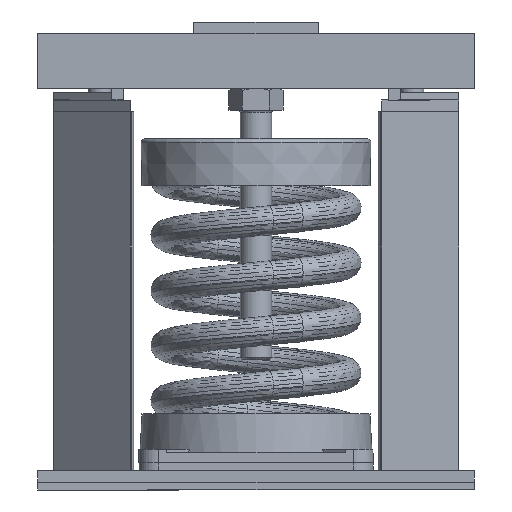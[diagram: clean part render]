
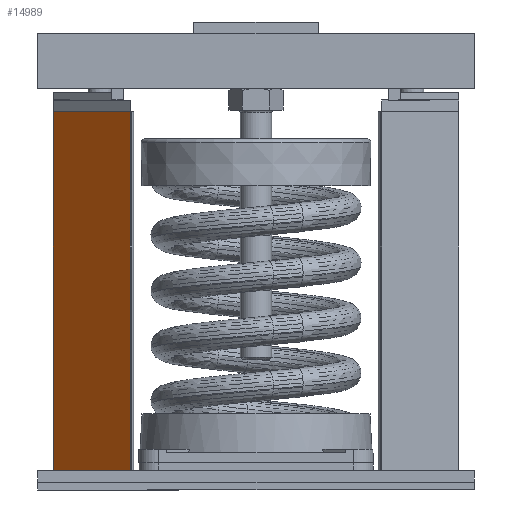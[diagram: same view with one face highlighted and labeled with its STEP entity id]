
A CAD part, front view. The second image highlights one B-rep face of the part: STEP entity #14989.
In plain terms, the highlighted planar face has unit normal (-0.707, -0.707, 0) as drawn and (0, -1, 0) by its records, which use the part's own axes.
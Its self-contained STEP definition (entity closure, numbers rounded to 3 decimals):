
#2627=LINE('',#18952,#3086);
#2629=LINE('',#18956,#3088);
#2630=LINE('',#18958,#3089);
#2631=LINE('',#18959,#3090);
#3086=VECTOR('',#16983,11.5);
#3088=VECTOR('',#16987,3.5);
#3089=VECTOR('',#16988,11.5);
#3090=VECTOR('',#16989,3.5);
#3505=PLANE('',#16030);
#3992=FACE_OUTER_BOUND('',#4975,.T.);
#4975=EDGE_LOOP('',(#10425,#10426,#10427,#10428));
#6324=VERTEX_POINT('',#18949);
#6325=VERTEX_POINT('',#18951);
#6326=VERTEX_POINT('',#18955);
#6327=VERTEX_POINT('',#18957);
#7933=EDGE_CURVE('',#6325,#6324,#2627,.T.);
#7935=EDGE_CURVE('',#6324,#6326,#2629,.T.);
#7936=EDGE_CURVE('',#6327,#6326,#2630,.T.);
#7937=EDGE_CURVE('',#6325,#6327,#2631,.T.);
#10425=ORIENTED_EDGE('',*,*,#7935,.T.);
#10426=ORIENTED_EDGE('',*,*,#7936,.F.);
#10427=ORIENTED_EDGE('',*,*,#7937,.F.);
#10428=ORIENTED_EDGE('',*,*,#7933,.T.);
#14989=ADVANCED_FACE('',(#3992),#3505,.T.);
#16030=AXIS2_PLACEMENT_3D('',#18954,#16985,#16986);
#16983=DIRECTION('',(0.,0.,1.));
#16985=DIRECTION('center_axis',(0.,-1.,0.));
#16986=DIRECTION('ref_axis',(0.,0.,-1.));
#16987=DIRECTION('',(-1.,0.,0.));
#16988=DIRECTION('',(0.,0.,1.));
#16989=DIRECTION('',(-1.,0.,0.));
#18949=CARTESIAN_POINT('',(3.5,0.,11.5));
#18951=CARTESIAN_POINT('',(3.5,0.,0.));
#18952=CARTESIAN_POINT('',(3.5,0.,0.));
#18954=CARTESIAN_POINT('Origin',(3.5,0.,0.));
#18955=CARTESIAN_POINT('',(0.,0.,11.5));
#18956=CARTESIAN_POINT('',(2.625,0.,11.5));
#18957=CARTESIAN_POINT('',(0.,0.,0.));
#18958=CARTESIAN_POINT('',(0.,0.,0.));
#18959=CARTESIAN_POINT('',(2.625,0.,0.));
